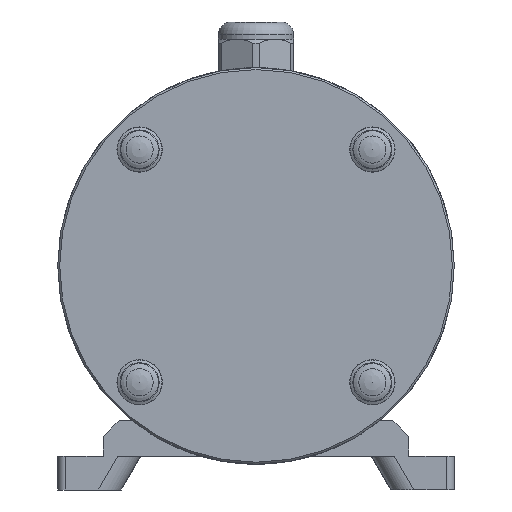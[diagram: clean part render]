
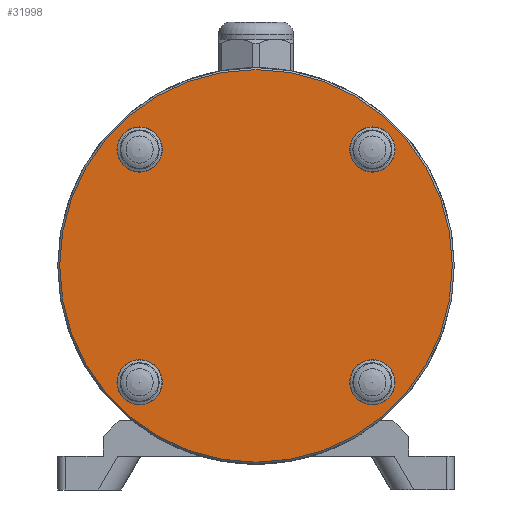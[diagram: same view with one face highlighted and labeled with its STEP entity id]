
A CAD part, left-side view. The second image highlights one B-rep face of the part: STEP entity #31998.
In plain terms, the highlighted planar face has unit normal (-1, 0, 0).
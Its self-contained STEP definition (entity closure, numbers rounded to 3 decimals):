
#7269=PLANE('',#35030);
#8577=FACE_BOUND('',#12522,.T.);
#8578=FACE_BOUND('',#12523,.T.);
#8579=FACE_BOUND('',#12524,.T.);
#8580=FACE_BOUND('',#12525,.T.);
#10111=FACE_OUTER_BOUND('',#12521,.T.);
#12521=EDGE_LOOP('',(#28184));
#12522=EDGE_LOOP('',(#28185));
#12523=EDGE_LOOP('',(#28186));
#12524=EDGE_LOOP('',(#28187));
#12525=EDGE_LOOP('',(#28188));
#14079=CIRCLE('',#34916,4.75);
#14082=CIRCLE('',#34922,4.75);
#14085=CIRCLE('',#34928,4.75);
#14088=CIRCLE('',#34934,4.75);
#14116=CIRCLE('',#35029,49.5);
#16767=VERTEX_POINT('',#53715);
#16770=VERTEX_POINT('',#53724);
#16773=VERTEX_POINT('',#53733);
#16776=VERTEX_POINT('',#53742);
#16847=VERTEX_POINT('',#54304);
#20631=EDGE_CURVE('',#16767,#16767,#14079,.T.);
#20634=EDGE_CURVE('',#16770,#16770,#14082,.T.);
#20637=EDGE_CURVE('',#16773,#16773,#14085,.T.);
#20640=EDGE_CURVE('',#16776,#16776,#14088,.T.);
#20756=EDGE_CURVE('',#16847,#16847,#14116,.T.);
#28184=ORIENTED_EDGE('',*,*,#20756,.F.);
#28185=ORIENTED_EDGE('',*,*,#20631,.T.);
#28186=ORIENTED_EDGE('',*,*,#20634,.T.);
#28187=ORIENTED_EDGE('',*,*,#20637,.T.);
#28188=ORIENTED_EDGE('',*,*,#20640,.T.);
#31998=ADVANCED_FACE('',(#10111,#8577,#8578,#8579,#8580),#7269,.F.);
#34916=AXIS2_PLACEMENT_3D('',#53716,#42738,#42739);
#34922=AXIS2_PLACEMENT_3D('',#53725,#42750,#42751);
#34928=AXIS2_PLACEMENT_3D('',#53734,#42762,#42763);
#34934=AXIS2_PLACEMENT_3D('',#53743,#42774,#42775);
#35029=AXIS2_PLACEMENT_3D('',#54305,#43024,#43025);
#35030=AXIS2_PLACEMENT_3D('',#54306,#43026,#43027);
#42738=DIRECTION('center_axis',(1.,0.,0.));
#42739=DIRECTION('ref_axis',(0.,0.707,0.707));
#42750=DIRECTION('center_axis',(1.,0.,0.));
#42751=DIRECTION('ref_axis',(0.,0.707,-0.707));
#42762=DIRECTION('center_axis',(1.,0.,0.));
#42763=DIRECTION('ref_axis',(0.,-0.707,-0.707));
#42774=DIRECTION('center_axis',(1.,0.,0.));
#42775=DIRECTION('ref_axis',(0.,-0.707,0.707));
#43024=DIRECTION('center_axis',(1.,0.,0.));
#43025=DIRECTION('ref_axis',(0.,0.,
-1.));
#43026=DIRECTION('center_axis',(1.,0.,0.));
#43027=DIRECTION('ref_axis',(0.,0.,-1.));
#53715=CARTESIAN_POINT('',(-59.,32.704,32.704));
#53716=CARTESIAN_POINT('Origin',(-59.,29.345,29.345));
#53724=CARTESIAN_POINT('',(-59.,32.704,-32.704));
#53725=CARTESIAN_POINT('Origin',(-59.,29.345,-29.345));
#53733=CARTESIAN_POINT('',(-59.,-32.704,-32.704));
#53734=CARTESIAN_POINT('Origin',(-59.,-29.345,-29.345));
#53742=CARTESIAN_POINT('',(-59.,-32.704,32.704));
#53743=CARTESIAN_POINT('Origin',(-59.,-29.345,29.345));
#54304=CARTESIAN_POINT('',(-59.,0.,49.5));
#54305=CARTESIAN_POINT('Origin',(-59.,0.,0.));
#54306=CARTESIAN_POINT('Origin',(-59.,0.,0.));
